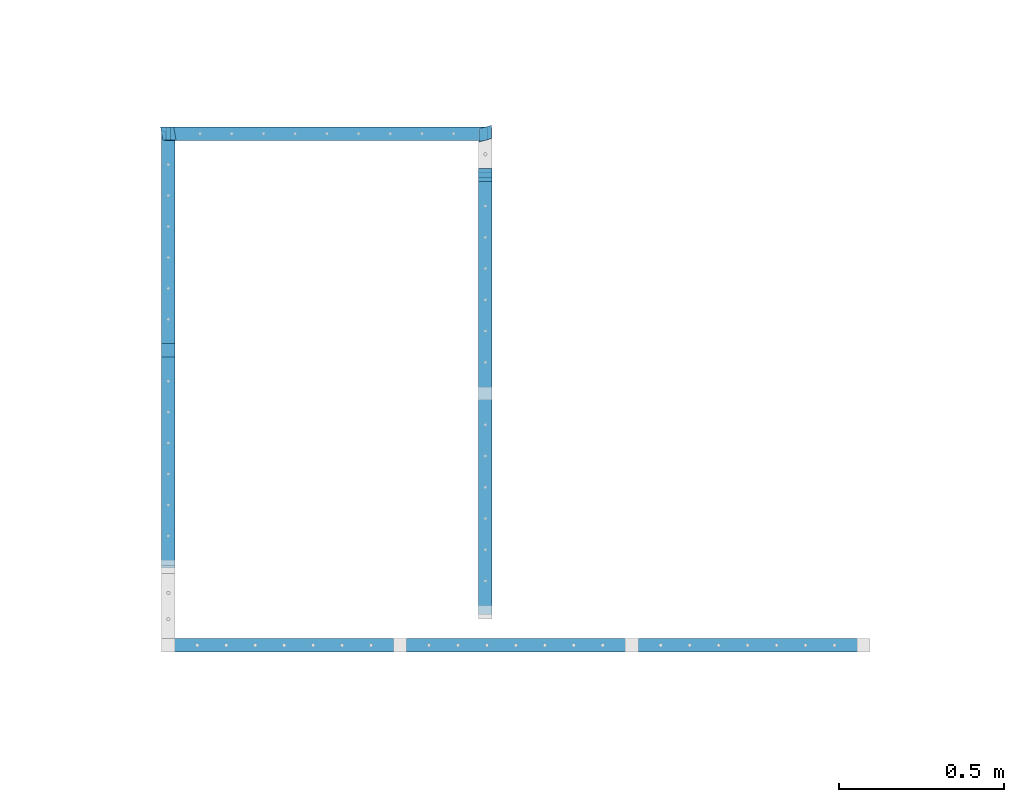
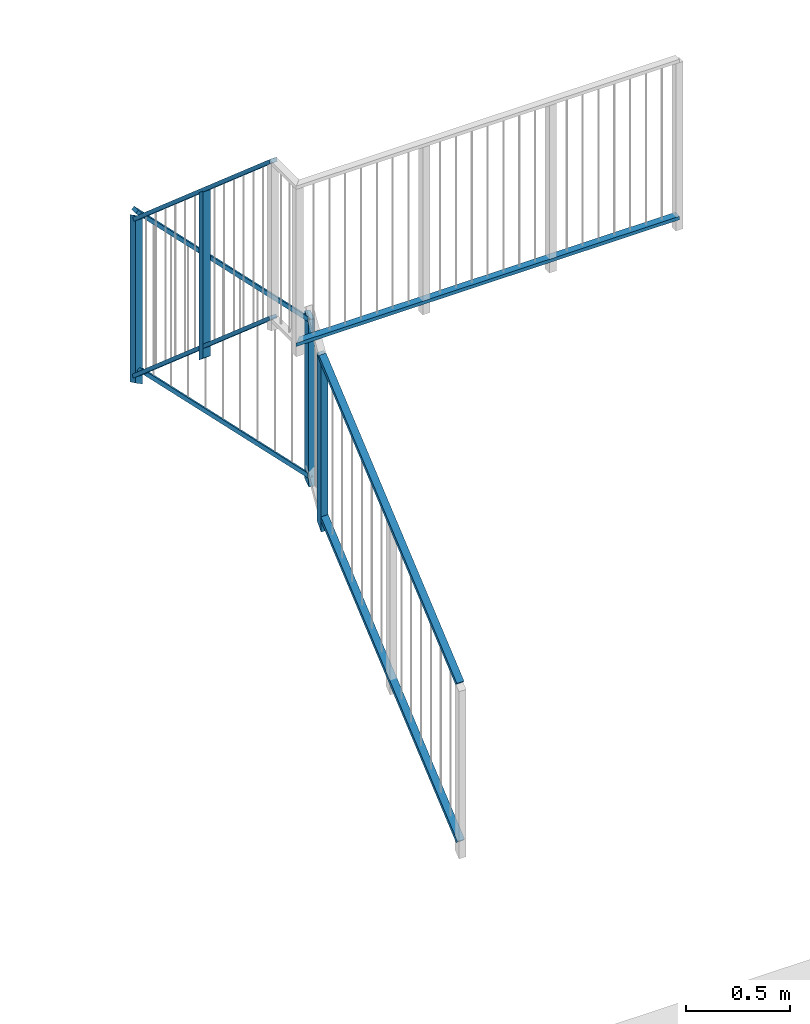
# One storey, part 57 of 135: 11 members, 1 element without a shape of its own.
"""IFC2X3 building model written with IfcOpenShell, lengths in millimetres."""

from ifc_helpers import new_model, entity, si_unit, converted_unit, derived_unit, money_unit, direction, frame, origin_with_axes, place, context, subcontext, project, spatial, faceted_brep, material, type_object, element, aggregate, save


model = new_model("IFC2X3")

# Units and contexts
model_context = context("Model", 3, precision=0.01, world=origin_with_axes(), true_north=direction((0.0, 1.0)))
body_context = subcontext(model_context, "Body", "Model", "MODEL_VIEW")
ifc_project = project(units=[si_unit("LENGTHUNIT", "METRE", prefix="MILLI"), si_unit("AREAUNIT", "SQUARE_METRE"), si_unit("VOLUMEUNIT", "CUBIC_METRE"), converted_unit("PLANEANGLEUNIT", "DEGREE", entity("IfcPlaneAngleMeasure", 0.0174532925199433), si_unit("PLANEANGLEUNIT", "RADIAN"), dimensions=[0, 0, 0, 0, 0, 0, 0]), money_unit("EUR"), converted_unit("TIMEUNIT", "Year", entity("IfcTimeMeasure", 31557600.0), si_unit("TIMEUNIT", "SECOND"), dimensions=[0, 0, 1, 0, 0, 0, 0]), si_unit("MASSUNIT", "GRAM", prefix="KILO"), si_unit("THERMODYNAMICTEMPERATUREUNIT", "DEGREE_CELSIUS"), si_unit("LUMINOUSINTENSITYUNIT", "LUMEN"), si_unit("ENERGYUNIT", "JOULE", prefix="MEGA"), derived_unit("THERMALCONDUCTANCEUNIT", [(si_unit("POWERUNIT", "WATT"), 1), (si_unit("LENGTHUNIT", "METRE"), -1), (si_unit("THERMODYNAMICTEMPERATUREUNIT", "KELVIN"), -1)]), derived_unit("SPECIFICHEATCAPACITYUNIT", [(si_unit("ENERGYUNIT", "JOULE"), 1), (si_unit("MASSUNIT", "GRAM", prefix="KILO"), -1), (si_unit("THERMODYNAMICTEMPERATUREUNIT", "KELVIN"), -1)]), derived_unit("MASSDENSITYUNIT", [(si_unit("MASSUNIT", "GRAM", prefix="KILO"), 1), (si_unit("VOLUMEUNIT", "CUBIC_METRE"), -1)])], contexts=[model_context])

# Site, building, storey
site_placement = place(None, origin_with_axes())
site = spatial("IfcSite", under=ifc_project, at=site_placement, Name="Site", CompositionType="ELEMENT")
building_placement = place(site_placement, origin_with_axes())
building = spatial("IfcBuilding", under=site, at=building_placement, Name="Naam gebouw", CompositionType="ELEMENT")
storey_placement = place(building_placement, origin_with_axes())
storey = spatial("IfcBuildingStorey", under=building, at=storey_placement, Name="Begane grond N", CompositionType="ELEMENT", Elevation=0.0)

# Railing, members
railing_type = type_object("IfcRailingType", Name="Railing Type", PredefinedType="NOTDEFINED")
railing_placement = place(storey_placement, frame((799.9999999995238, 21575.82979156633, 4340.731848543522), z_axis=(0.0, 0.0, 1.0), x_axis=(1.0, 0.0, 0.0)))
railing = element("IfcRailing", 1, at=railing_placement, inside=storey, type_object=railing_type, Name="_Reling-x", PredefinedType="NOTDEFINED")
ifc_material = material(Name="Metaal - Staal C")
member_type_1 = type_object("IfcMemberType", Name="IfcMember", PredefinedType="POST")
member_1_placement = place(railing_placement, frame((-124.9824701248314, 1324.56910734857, 1118.741835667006), z_axis=(0.0, 0.0, 1.0), x_axis=(1.0, 0.0, 0.0)))
member_1 = element("IfcMember", 2, at=member_1_placement, type_object=member_type_1, material=ifc_material, Name="_Hoofdbaluster-x", ObjectType="POST", context=body_context, shape_type="Brep", body=[
    faceted_brep([(19.99999996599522, 20.00116627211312, 23.55263575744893), (-19.99999996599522, 19.99883372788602, 23.55461638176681), (-19.99999996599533, 19.99883372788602, 1003.554616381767), (19.99999996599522, 20.00116627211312, 1003.552635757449), (19.99999996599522, -19.99883372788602, -23.55461638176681), (-19.99999996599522, -20.00116627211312, -23.55263575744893), (-19.99999996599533, -20.00116627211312, 956.4473642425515), (19.99999996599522, -19.99883372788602, 956.4453836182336)], [[[0, 1, 2, 3]], [[0, 4, 5, 1]], [[1, 5, 6, 2]], [[3, 2, 6, 7]], [[4, 0, 3, 7]], [[5, 4, 7, 6]]]),
])
member_2_placement = place(railing_placement, frame((-1084.999999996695, 1449.287334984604, 2210.875898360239), z_axis=(0.0, 0.0, 1.0), x_axis=(1.0, 0.0, 0.0)))
member_2 = element("IfcMember", 3, at=member_2_placement, type_object=member_type_1, material=ifc_material, Name="_Hoofdbaluster-x", ObjectType="POST", context=body_context, shape_type="Brep", body=[
    faceted_brep([(-23.48416666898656, 19.69417636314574, 2.634777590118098), (-16.51583333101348, -19.69417636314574, 16.90193440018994), (-16.51583333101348, -19.69417636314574, 996.9019344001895), (-23.48416666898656, 19.69417636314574, 982.6347775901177), (16.51583333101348, 19.69417636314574, -16.90193440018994), (23.48416666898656, -19.69417636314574, -2.634777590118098), (23.48416666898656, -19.69417636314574, 977.3652224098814), (16.51583333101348, 19.69417636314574, 963.0980655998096)], [[[0, 1, 2, 3]], [[0, 4, 5, 1]], [[1, 5, 6, 2]], [[3, 2, 6, 7]], [[4, 0, 3, 7]], [[5, 4, 7, 6]]]),
])
member_3_placement = place(railing_placement, frame((-125.0043944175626, 1449.287334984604, 1293.893345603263), z_axis=(0.0, 0.0, 1.0), x_axis=(1.0, 0.0, 0.0)))
member_3 = element("IfcMember", 4, at=member_3_placement, type_object=member_type_1, material=ifc_material, Name="_Hoofdbaluster-x", ObjectType="POST", context=body_context, shape_type="Brep", body=[
    faceted_brep([(19.27305760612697, 25.33045145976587, 6.597985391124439), (-19.28008929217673, 14.66954792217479, 21.67252759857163), (-19.28008929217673, 14.66954792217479, 1001.672527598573), (19.27305760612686, 25.33045145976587, 986.5979853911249), (19.28008929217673, -14.66954792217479, -21.67252759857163), (-19.27305760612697, -25.33045145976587, -6.597985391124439), (-19.27305760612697, -25.33045145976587, 973.402014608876), (19.28008929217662, -14.66954792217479, 958.3274724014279)], [[[0, 1, 2, 3]], [[0, 4, 5, 1]], [[1, 5, 6, 2]], [[3, 2, 6, 7]], [[4, 0, 3, 7]], [[5, 4, 7, 6]]]),
])
member_4_placement = place(railing_placement, frame((-1084.999999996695, 793.4541141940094, 2754.674104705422), z_axis=(0.0, 0.0, 1.0), x_axis=(1.0, 0.0, 0.0)))
member_4 = element("IfcMember", 5, at=member_4_placement, type_object=member_type_1, material=ifc_material, Name="_Baluster-x", ObjectType="POST", context=body_context, shape_type="Brep", body=[
    faceted_brep([(-20.00000000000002, -19.99999999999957, 17.29994848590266), (20.00000000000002, -19.99999999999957, 17.29994848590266), (20.00000000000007, -19.99999999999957, 997.2999484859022), (-19.99999999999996, -19.99999999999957, 997.2999484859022), (-20.00000000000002, 19.99999999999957, -17.29994848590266), (20.00000000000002, 19.99999999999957, -17.29994848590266), (20.00000000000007, 19.99999999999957, 962.7000515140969), (-19.99999999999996, 19.99999999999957, 962.7000515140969)], [[[0, 1, 2, 3]], [[0, 4, 5, 1]], [[1, 5, 6, 2]], [[3, 2, 6, 7]], [[4, 0, 3, 7]], [[5, 4, 7, 6]]]),
])
member_type_2 = type_object("IfcMemberType", Name="IfcMember", PredefinedType="USERDEFINED")
member_5_placement = place(railing_placement, frame((-124.9824699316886, 662.2834549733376, 971.715728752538), z_axis=(0.0, 0.0, 1.0), x_axis=(1.0, 0.0, 0.0)))
member_5 = element("IfcMember", 6, at=member_5_placement, type_object=member_type_2, material=ifc_material, Name="_Bovenregel-x", context=body_context, shape_type="Brep", body=[
    faceted_brep([(19.99999999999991, -662.2834549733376, 28.28427124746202), (19.99999999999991, -649.3783662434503, 13.00491638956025), (19.99890857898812, 677.7413023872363, 1133.901643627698), (-20.00000000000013, -662.2834549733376, 28.28427124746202), (-20.00000000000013, -649.3783662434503, 13.00491638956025), (-20.00109137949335, 677.7384779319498, 1133.901643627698), (19.99999997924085, 662.2848672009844, 1147.026106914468), (-19.99999997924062, 662.2820427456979, 1147.026106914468)], [[[0, 1, 2]], [[0, 3, 4, 1]], [[1, 5, 2]], [[0, 2, 6]], [[3, 0, 6]], [[4, 3, 7]], [[1, 4, 5]], [[6, 2, 5, 7]], [[3, 6, 7]], [[4, 7, 5]]]),
])
member_6_placement = place(railing_placement, frame((-124.9824699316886, 662.2834549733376, 47.63932022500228), z_axis=(0.0, 0.0, 1.0), x_axis=(1.0, 0.0, 0.0)))
member_6 = element("IfcMember", 7, at=member_6_placement, type_object=member_type_2, material=ifc_material, Name="_Regel-x", context=body_context, shape_type="Brep", body=[
    faceted_brep([(19.99999999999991, -668.7359993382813, 30.00035720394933), (19.99999999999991, -655.8309106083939, 14.72100234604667), (19.99945427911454, 670.0130847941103, 1134.540283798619), (-20.00000000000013, -668.7359993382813, 30.00035720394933), (-20.00000000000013, -655.8309106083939, 14.72100234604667), (-20.00054567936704, 670.0102603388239, 1134.540283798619), (20.00054567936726, 654.5566496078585, 1147.664747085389), (-19.99945427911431, 654.553825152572, 1147.664747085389)], [[[0, 1, 2]], [[0, 3, 4, 1]], [[1, 5, 2]], [[0, 2, 6]], [[3, 0, 6]], [[4, 3, 7]], [[1, 4, 5]], [[6, 2, 5, 7]], [[3, 6, 7]], [[4, 7, 5]]]),
])
member_7_placement = place(railing_placement, frame((-605.0021972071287, 1449.287334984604, 2232.008910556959), z_axis=(0.0, 0.0, 1.0), x_axis=(1.0, 0.0, 0.0)))
member_7 = element("IfcMember", 8, at=member_7_placement, type_object=member_type_2, material=ifc_material, Name="_Bovenregel-x", context=body_context, shape_type="Brep", body=[
    faceted_brep([(479.9978027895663, 19.99999999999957, 28.28427124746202), (465.7530688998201, 19.99999999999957, 14.24548367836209), (-494.2425366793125, 19.99999999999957, 988.3240406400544), (-479.9978027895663, 19.99999999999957, 1002.362828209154), (479.9978027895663, -19.99999999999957, 28.28427124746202), (465.7530688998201, -19.99999999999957, 14.24548367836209), (-494.2425366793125, -19.99999999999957, 988.3240406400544), (-479.9978027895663, -19.99999999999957, 1002.362828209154)], [[[0, 1, 2, 3]], [[0, 4, 5, 1]], [[1, 5, 6, 2]], [[3, 2, 6, 7]], [[4, 0, 3, 7]], [[5, 4, 7, 6]]]),
])
member_8_placement = place(railing_placement, frame((-605.0021972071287, 1449.287334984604, 1307.932502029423), z_axis=(0.0, 0.0, 1.0), x_axis=(1.0, 0.0, 0.0)))
member_8 = element("IfcMember", 9, at=member_8_placement, type_object=member_type_2, material=ifc_material, Name="_Regel-x", context=body_context, shape_type="Brep", body=[
    faceted_brep([(487.1201697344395, 19.99999999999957, 29.38007355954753), (472.8754358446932, 19.99999999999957, 15.34128599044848), (-487.1201697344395, 19.99999999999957, 989.4198429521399), (-472.8754358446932, 19.99999999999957, 1003.458630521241), (487.1201697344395, -19.99999999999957, 29.38007355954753), (472.8754358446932, -19.99999999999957, 15.34128599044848), (-487.1201697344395, -19.99999999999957, 989.4198429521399), (-472.8754358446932, -19.99999999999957, 1003.458630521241)], [[[0, 1, 2, 3]], [[0, 4, 5, 1]], [[1, 5, 6, 2]], [[3, 2, 6, 7]], [[4, 0, 3, 7]], [[5, 4, 7, 6]]]),
])
member_9_placement = place(railing_placement, frame((-1084.999999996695, 793.4541141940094, 3159.095786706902), z_axis=(0.0, 0.0, 1.0), x_axis=(1.0, 0.0, 0.0)))
member_9 = element("IfcMember", 10, at=member_9_placement, type_object=member_type_2, material=ifc_material, Name="_Bovenregel-x", context=body_context, shape_type="Brep", body=[
    faceted_brep([(-19.99999999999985, 655.8332207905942, 28.28427124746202), (-19.99999999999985, 642.7490350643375, 13.15799993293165), (-20.00000000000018, -663.2830213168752, 1142.872364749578), (-20.00000000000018, -655.8332207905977, 1162.872364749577), (20.00000000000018, 655.8332207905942, 28.28427124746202), (20.00000000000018, 642.7490350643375, 13.15799993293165), (19.99999999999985, -663.2830213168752, 1142.872364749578), (19.99999999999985, -655.8332207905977, 1162.872364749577)], [[[0, 1, 2, 3]], [[0, 4, 5, 1]], [[1, 5, 6, 2]], [[3, 2, 6, 7]], [[4, 0, 3, 7]], [[5, 4, 7, 6]]]),
])
member_10_placement = place(railing_placement, frame((-1084.999999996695, 793.4541141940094, 2235.019378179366), z_axis=(0.0, 0.0, 1.0), x_axis=(1.0, 0.0, 0.0)))
member_10 = element("IfcMember", 11, at=member_10_placement, type_object=member_type_2, material=ifc_material, Name="_Regel-x", context=body_context, shape_type="Brep", body=[
    faceted_brep([(-19.99999999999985, 662.3753136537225, 29.92381543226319), (-19.99999999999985, 649.2911279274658, 14.79754411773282), (-20.00000000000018, -659.5581210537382, 1146.948773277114), (-20.00000000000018, -652.1083205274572, 1166.948773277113), (20.00000000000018, 662.3753136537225, 29.92381543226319), (20.00000000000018, 649.2911279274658, 14.79754411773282), (19.99999999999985, -659.5581210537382, 1146.948773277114), (19.99999999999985, -652.1083205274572, 1166.948773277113)], [[[0, 1, 2, 3]], [[0, 4, 5, 1]], [[1, 5, 6, 2]], [[3, 2, 6, 7]], [[4, 0, 3, 7]], [[5, 4, 7, 6]]]),
])
member_11_placement = place(railing_placement, frame((-32.49999999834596, -99.99999999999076, 3369.607471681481), z_axis=(0.0, 0.0, 1.0), x_axis=(1.0, 0.0, 0.0)))
member_11 = element("IfcMember", 12, at=member_11_placement, type_object=member_type_2, material=ifc_material, Name="_Regel-x", context=body_context, shape_type="Brep", body=[
    faceted_brep([(-1072.499999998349, -19.99999999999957, 32.36067977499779), (-1072.499999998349, -19.99999999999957, 12.36067977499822), (1052.499999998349, -19.99999999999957, 12.36067977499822), (1052.499999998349, -19.99999999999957, 32.36067977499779), (-1032.499999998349, 19.99999999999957, 32.36067977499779), (-1032.499999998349, 19.99999999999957, 12.36067977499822), (1052.499999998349, 19.99999999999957, 12.36067977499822), (1052.499999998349, 19.99999999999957, 32.36067977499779)], [[[0, 1, 2, 3]], [[0, 4, 5, 1]], [[1, 5, 6, 2]], [[3, 2, 6, 7]], [[4, 0, 3, 7]], [[5, 4, 7, 6]]]),
])
aggregate(railing, [member_1, member_2, member_3, member_5, member_6, member_7, member_8, member_9, member_10, member_4, member_11])

save(model, "model.ifc")
